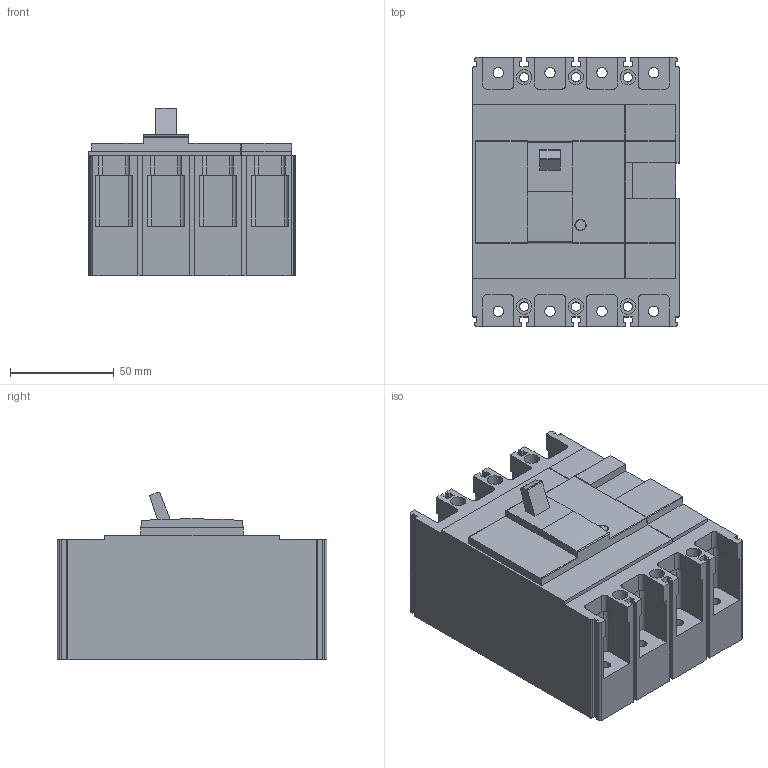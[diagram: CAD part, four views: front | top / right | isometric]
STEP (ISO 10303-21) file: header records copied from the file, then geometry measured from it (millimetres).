
FILE_DESCRIPTION (( 'STEP AP203' ), '1' );
FILE_NAME ('SMART 100AF 4P (60A 檜鼻).STEP', '2018-01-04T00:52:16', ( '' ), ( '' ), 'SwSTEP 2.0', 'SolidWorks 2015', '' );
FILE_SCHEMA (( 'CONFIG_CONTROL_DESIGN' ));
Length unit declared in the file: millimetre
Products named in the file (1): SMART 100AF 4P (60A 檜鼻)
Bounding box: 99.6 x 130 x 80.91 mm (x, y, z)
Volume: 695035.4 mm3; surface area: 78645.3 mm2
Topology: 1 solids, 1 shells, 275 faces, 794 edges, 530 vertices
Faces by surface type: plane 178, cylinder 97
Entity records: 9173 total; most frequent: CARTESIAN_POINT 1600, ORIENTED_EDGE 1588, DIRECTION 1542, EDGE_CURVE 794, LINE 598, VECTOR 598, VERTEX_POINT 530, AXIS2_PLACEMENT_3D 472
